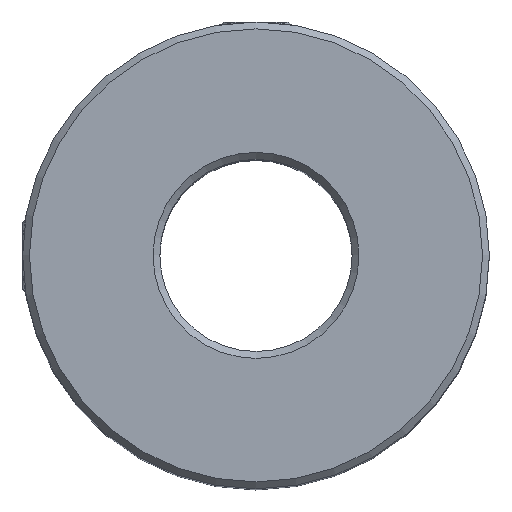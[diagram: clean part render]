
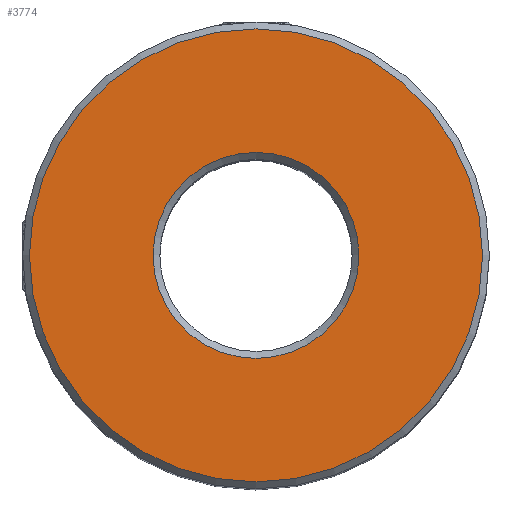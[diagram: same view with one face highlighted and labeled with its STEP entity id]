
A CAD part, top view. The second image highlights one B-rep face of the part: STEP entity #3774.
In plain terms, the highlighted planar face has unit normal (0, 0, 1).
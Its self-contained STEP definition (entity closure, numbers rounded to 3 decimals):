
#228 = DIRECTION ( 'NONE',  ( 1., 0., 0. ) ) ;
#644 = EDGE_CURVE ( 'NONE', #4810, #4810, #1840, .T. ) ;
#649 = PLANE ( 'NONE',  #2782 ) ;
#1374 = CARTESIAN_POINT ( 'NONE',  ( 0., 0., 25. ) ) ;
#1390 = EDGE_CURVE ( 'NONE', #7324, #7324, #5843, .T. ) ;
#1460 = AXIS2_PLACEMENT_3D ( 'NONE', #1374, #5730, #228 ) ;
#1840 = CIRCLE ( 'NONE', #1460, 7.5 ) ;
#2371 = AXIS2_PLACEMENT_3D ( 'NONE', #5469, #7924, #3793 ) ;
#2782 = AXIS2_PLACEMENT_3D ( 'NONE', #7358, #4800, #7401 ) ;
#3071 = CARTESIAN_POINT ( 'NONE',  ( 16.5, 0., 25. ) ) ;
#3400 = ORIENTED_EDGE ( 'NONE', *, *, #1390, .T. ) ;
#3737 = FACE_BOUND ( 'NONE', #4002, .T. ) ;
#3774 = ADVANCED_FACE ( 'NONE', ( #3737, #7950 ), #649, .T. ) ;
#3793 = DIRECTION ( 'NONE',  ( 1., 0., 0. ) ) ;
#4002 = EDGE_LOOP ( 'NONE', ( #5835 ) ) ;
#4113 = CARTESIAN_POINT ( 'NONE',  ( 7.5, 0., 25. ) ) ;
#4800 = DIRECTION ( 'NONE',  ( 0., 0., 1. ) ) ;
#4810 = VERTEX_POINT ( 'NONE', #4113 ) ;
#5469 = CARTESIAN_POINT ( 'NONE',  ( 0., 0., 25. ) ) ;
#5730 = DIRECTION ( 'NONE',  ( 0., 0., -1. ) ) ;
#5835 = ORIENTED_EDGE ( 'NONE', *, *, #644, .T. ) ;
#5843 = CIRCLE ( 'NONE', #2371, 16.5 ) ;
#5948 = EDGE_LOOP ( 'NONE', ( #3400 ) ) ;
#7324 = VERTEX_POINT ( 'NONE', #3071 ) ;
#7358 = CARTESIAN_POINT ( 'NONE',  ( 0., 0., 25. ) ) ;
#7401 = DIRECTION ( 'NONE',  ( 1., 0., 0. ) ) ;
#7924 = DIRECTION ( 'NONE',  ( 0., 0., 1. ) ) ;
#7950 = FACE_OUTER_BOUND ( 'NONE', #5948, .T. ) ;
